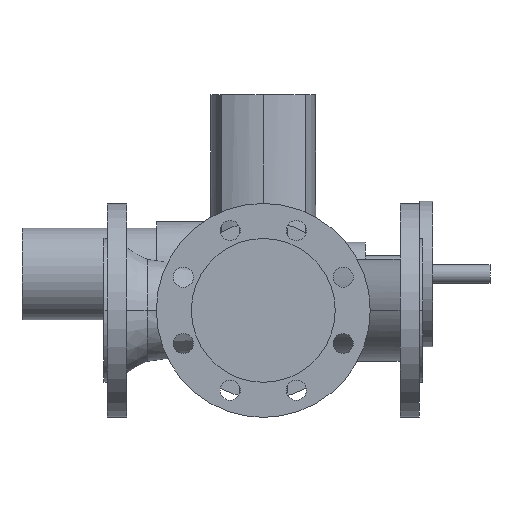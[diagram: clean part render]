
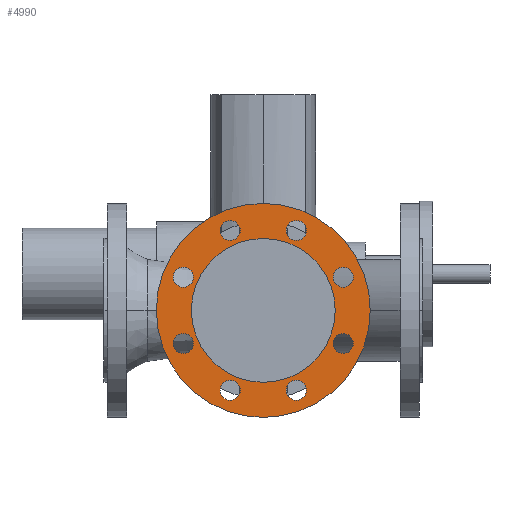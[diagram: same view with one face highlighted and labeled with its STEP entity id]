
A CAD part, front view. The second image highlights one B-rep face of the part: STEP entity #4990.
In plain terms, the highlighted planar face has unit normal (0, -1, 0).
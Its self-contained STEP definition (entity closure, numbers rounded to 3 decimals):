
#3210=CARTESIAN_POINT('',(254.,-146.5,0.));
#3220=VERTEX_POINT('',#3210);
#3270=CARTESIAN_POINT('',(175.,-146.5,0.));
#3280=DIRECTION('',(0.,-1.,0.));
#3290=DIRECTION('',(1.,0.,0.));
#3300=AXIS2_PLACEMENT_3D('',#3270,#3280,#3290);
#3310=CIRCLE('',#3300,79.);
#3320=CARTESIAN_POINT('',(96.,-146.5,0.));
#3330=VERTEX_POINT('',#3320);
#3340=EDGE_CURVE('',#3330,#3220,#3310,.T.);
#3540=CARTESIAN_POINT('',(175.,-146.5,0.));
#3550=DIRECTION('',(0.,1.,0.));
#3560=DIRECTION('',(0.,0.,1.));
#3570=AXIS2_PLACEMENT_3D('',#3540,#3550,#3560);
#3580=PLANE('',#3570);
#3590=CARTESIAN_POINT('',(87.231,-146.5,36.355));
#3600=DIRECTION('',(0.,1.,0.));
#3610=DIRECTION('',(1.,0.,0.));
#3620=AXIS2_PLACEMENT_3D('',#3590,#3600,#3610);
#3630=CIRCLE('',#3620,11.);
#3640=CARTESIAN_POINT('',(76.231,-146.5,36.355));
#3650=VERTEX_POINT('',#3640);
#3660=CARTESIAN_POINT('',(98.231,-146.5,36.355));
#3670=VERTEX_POINT('',#3660);
#3680=EDGE_CURVE('',#3650,#3670,#3630,.T.);
#3690=ORIENTED_EDGE('',*,*,#3680,.T.);
#3700=EDGE_CURVE('',#3670,#3650,#3630,.T.);
#3710=ORIENTED_EDGE('',*,*,#3700,.T.);
#3720=EDGE_LOOP('',(#3710,#3690));
#3730=FACE_BOUND('',#3720,.T.);
#3740=CARTESIAN_POINT('',(87.231,-146.5,-36.355));
#3750=DIRECTION('',(0.,1.,0.));
#3760=DIRECTION('',(1.,0.,0.));
#3770=AXIS2_PLACEMENT_3D('',#3740,#3750,#3760);
#3780=CIRCLE('',#3770,11.);
#3790=CARTESIAN_POINT('',(98.231,-146.5,-36.355));
#3800=VERTEX_POINT('',#3790);
#3810=CARTESIAN_POINT('',(76.231,-146.5,-36.355));
#3820=VERTEX_POINT('',#3810);
#3830=EDGE_CURVE('',#3800,#3820,#3780,.T.);
#3840=ORIENTED_EDGE('',*,*,#3830,.T.);
#3850=EDGE_CURVE('',#3820,#3800,#3780,.T.);
#3860=ORIENTED_EDGE('',*,*,#3850,.T.);
#3870=EDGE_LOOP('',(#3860,#3840));
#3880=FACE_BOUND('',#3870,.T.);
#3890=CARTESIAN_POINT('',(138.645,-146.5,87.769));
#3900=DIRECTION('',(0.,1.,0.));
#3910=DIRECTION('',(1.,0.,0.));
#3920=AXIS2_PLACEMENT_3D('',#3890,#3900,#3910);
#3930=CIRCLE('',#3920,11.);
#3940=CARTESIAN_POINT('',(149.645,-146.5,87.769));
#3950=VERTEX_POINT('',#3940);
#3960=CARTESIAN_POINT('',(127.645,-146.5,87.769));
#3970=VERTEX_POINT('',#3960);
#3980=EDGE_CURVE('',#3950,#3970,#3930,.T.);
#3990=ORIENTED_EDGE('',*,*,#3980,.T.);
#4000=EDGE_CURVE('',#3970,#3950,#3930,.T.);
#4010=ORIENTED_EDGE('',*,*,#4000,.T.);
#4020=EDGE_LOOP('',(#4010,#3990));
#4030=FACE_BOUND('',#4020,.T.);
#4040=CARTESIAN_POINT('',(138.645,-146.5,-87.769));
#4050=DIRECTION('',(0.,1.,0.));
#4060=DIRECTION('',(1.,0.,0.));
#4070=AXIS2_PLACEMENT_3D('',#4040,#4050,#4060);
#4080=CIRCLE('',#4070,11.);
#4090=CARTESIAN_POINT('',(149.645,-146.5,-87.769));
#4100=VERTEX_POINT('',#4090);
#4110=CARTESIAN_POINT('',(127.645,-146.5,-87.769));
#4120=VERTEX_POINT('',#4110);
#4130=EDGE_CURVE('',#4100,#4120,#4080,.T.);
#4140=ORIENTED_EDGE('',*,*,#4130,.T.);
#4150=EDGE_CURVE('',#4120,#4100,#4080,.T.);
#4160=ORIENTED_EDGE('',*,*,#4150,.T.);
#4170=EDGE_LOOP('',(#4160,#4140));
#4180=FACE_BOUND('',#4170,.T.);
#4190=CARTESIAN_POINT('',(211.355,-146.5,87.769));
#4200=DIRECTION('',(0.,1.,0.));
#4210=DIRECTION('',(1.,0.,0.));
#4220=AXIS2_PLACEMENT_3D('',#4190,#4200,#4210);
#4230=CIRCLE('',#4220,11.);
#4240=CARTESIAN_POINT('',(200.355,-146.5,87.769));
#4250=VERTEX_POINT('',#4240);
#4260=CARTESIAN_POINT('',(222.355,-146.5,87.769));
#4270=VERTEX_POINT('',#4260);
#4280=EDGE_CURVE('',#4250,#4270,#4230,.T.);
#4290=ORIENTED_EDGE('',*,*,#4280,.T.);
#4300=EDGE_CURVE('',#4270,#4250,#4230,.T.);
#4310=ORIENTED_EDGE('',*,*,#4300,.T.);
#4320=EDGE_LOOP('',(#4310,#4290));
#4330=FACE_BOUND('',#4320,.T.);
#4340=CARTESIAN_POINT('',(211.355,-146.5,-87.769));
#4350=DIRECTION('',(0.,1.,0.));
#4360=DIRECTION('',(1.,0.,0.));
#4370=AXIS2_PLACEMENT_3D('',#4340,#4350,#4360);
#4380=CIRCLE('',#4370,11.);
#4390=CARTESIAN_POINT('',(222.355,-146.5,-87.769));
#4400=VERTEX_POINT('',#4390);
#4410=CARTESIAN_POINT('',(200.355,-146.5,-87.769));
#4420=VERTEX_POINT('',#4410);
#4430=EDGE_CURVE('',#4400,#4420,#4380,.T.);
#4440=ORIENTED_EDGE('',*,*,#4430,.T.);
#4450=EDGE_CURVE('',#4420,#4400,#4380,.T.);
#4460=ORIENTED_EDGE('',*,*,#4450,.T.);
#4470=EDGE_LOOP('',(#4460,#4440));
#4480=FACE_BOUND('',#4470,.T.);
#4490=CARTESIAN_POINT('',(262.769,-146.5,36.355));
#4500=DIRECTION('',(0.,1.,0.));
#4510=DIRECTION('',(1.,0.,0.));
#4520=AXIS2_PLACEMENT_3D('',#4490,#4500,#4510);
#4530=CIRCLE('',#4520,11.);
#4540=CARTESIAN_POINT('',(273.769,-146.5,36.355));
#4550=VERTEX_POINT('',#4540);
#4560=CARTESIAN_POINT('',(251.769,-146.5,36.355));
#4570=VERTEX_POINT('',#4560);
#4580=EDGE_CURVE('',#4550,#4570,#4530,.T.);
#4590=ORIENTED_EDGE('',*,*,#4580,.T.);
#4600=EDGE_CURVE('',#4570,#4550,#4530,.T.);
#4610=ORIENTED_EDGE('',*,*,#4600,.T.);
#4620=EDGE_LOOP('',(#4610,#4590));
#4630=FACE_BOUND('',#4620,.T.);
#4640=CARTESIAN_POINT('',(262.769,-146.5,-36.355));
#4650=DIRECTION('',(0.,1.,0.));
#4660=DIRECTION('',(1.,0.,0.));
#4670=AXIS2_PLACEMENT_3D('',#4640,#4650,#4660);
#4680=CIRCLE('',#4670,11.);
#4690=CARTESIAN_POINT('',(273.769,-146.5,-36.355));
#4700=VERTEX_POINT('',#4690);
#4710=CARTESIAN_POINT('',(251.769,-146.5,-36.355));
#4720=VERTEX_POINT('',#4710);
#4730=EDGE_CURVE('',#4700,#4720,#4680,.T.);
#4740=ORIENTED_EDGE('',*,*,#4730,.T.);
#4750=EDGE_CURVE('',#4720,#4700,#4680,.T.);
#4760=ORIENTED_EDGE('',*,*,#4750,.T.);
#4770=EDGE_LOOP('',(#4760,#4740));
#4780=FACE_BOUND('',#4770,.T.);
#4790=CARTESIAN_POINT('',(175.,-146.5,0.));
#4800=DIRECTION('',(0.,1.,0.));
#4810=DIRECTION('',(1.,0.,0.));
#4820=AXIS2_PLACEMENT_3D('',#4790,#4800,#4810);
#4830=CIRCLE('',#4820,117.5);
#4840=CARTESIAN_POINT('',(292.5,-146.5,0.));
#4850=VERTEX_POINT('',#4840);
#4860=CARTESIAN_POINT('',(57.5,-146.5,0.));
#4870=VERTEX_POINT('',#4860);
#4880=EDGE_CURVE('',#4850,#4870,#4830,.T.);
#4890=ORIENTED_EDGE('',*,*,#4880,.F.);
#4900=EDGE_CURVE('',#4870,#4850,#4830,.T.);
#4910=ORIENTED_EDGE('',*,*,#4900,.F.);
#4920=EDGE_LOOP('',(#4910,#4890));
#4930=FACE_OUTER_BOUND('',#4920,.T.);
#4940=EDGE_CURVE('',#3220,#3330,#3310,.T.);
#4950=ORIENTED_EDGE('',*,*,#4940,.F.);
#4960=ORIENTED_EDGE('',*,*,#3340,.F.);
#4970=EDGE_LOOP('',(#4960,#4950));
#4980=FACE_BOUND('',#4970,.T.);
#4990=ADVANCED_FACE('',(#3730,#3880,#4030,#4180,#4330,#4480,#4630,#4780,
#4930,#4980),#3580,.F.);
